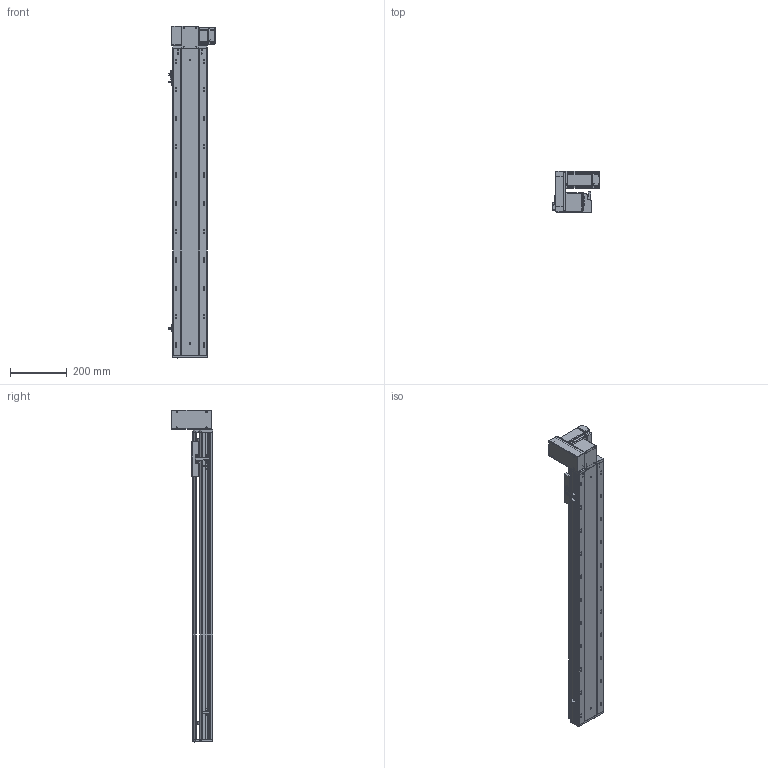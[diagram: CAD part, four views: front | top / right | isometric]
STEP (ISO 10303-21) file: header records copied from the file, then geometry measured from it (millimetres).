
FILE_DESCRIPTION (( 'STEP AP203' ), '1' );
FILE_NAME ('RY120-T-300-UL.SLDASM_850.step', '2021-03-01T05:35:57', ( '盈信电脑' ), ( '东莞市道滘镇水果街19号' ), 'SwSTEP 2.0', 'SolidWorks 2012', '' );
FILE_SCHEMA (( 'CONFIG_CONTROL_DESIGN' ));
Products named in the file (18): RY120-T蹟翐M4; RY120-T-300-UL.SLDASM_850; RY120-T翋肮祭謫裔啣; 滅袉蝶18-10; RY120-T萇儂欶; 侂狟400W侜督萇儂; RY120-T主同步轮轴承压盖; RY120-T肮祭湍揤踡輸2; 15; RY120-T萇儂假蚾啣; RY120-T翋肮祭盓傅釱; 覜茼ん672; RY120-T肮祭湍揤踡輸1; RY120外置感应片(140共用）; RY120-T-300-UL倰第奻裔啣_850; RY120肮祭湍臏賑輸; RY120綴裔啣; RY120-T-300-UL倰第菁釱_850
Assembly tree (23 placements, depth 3):
  RY120-T-300-UL.SLDASM_850
    RY120-T-300-UL倰第菁釱_850
    RY120-T-300-UL倰第奻裔啣_850
    RY120肮祭湍臏賑輸
    RY120綴裔啣
    覜茼ん672  x3
    RY120外置感应片(140共用）
    RY120-T肮祭湍揤踡輸1
    RY120-T肮祭湍揤踡輸2
    RY120-T翋肮祭盓傅釱
    RY120-T萇儂假蚾啣
    侂狟400W侜督萇儂
      15
    RY120-T主同步轮轴承压盖
    滅袉蝶18-10  x2
    RY120-T萇儂欶
    RY120-T蹟翐M4  x4
    RY120-T翋肮祭謫裔啣
Bounding box: 164.2 x 146 x 1171 mm (x, y, z)
Volume: 3281202.1 mm3; surface area: 1222308.3 mm2
Topology: 23 solids, 23 shells, 2968 faces, 8160 edges, 5250 vertices
Faces by surface type: plane 1456, cylinder 1174, cone 249, bspline 89
Entity records: 96562 total; most frequent: CARTESIAN_POINT 25610, ORIENTED_EDGE 14760, DIRECTION 13738, EDGE_CURVE 7380, VERTEX_POINT 4837, AXIS2_PLACEMENT_3D 4625, LINE 4488, VECTOR 4488
